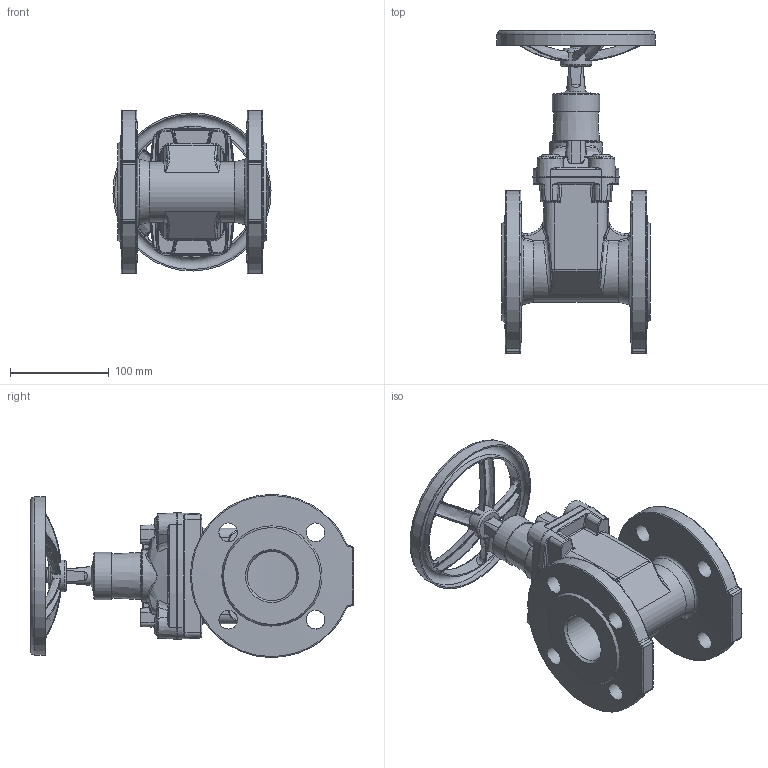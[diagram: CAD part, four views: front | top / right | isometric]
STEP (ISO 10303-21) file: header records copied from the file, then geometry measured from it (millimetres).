
FILE_DESCRIPTION (( 'STEP AP203' ), '1' );
FILE_NAME ('20.DN050.STEP', '2013-01-17T09:14:57', ( 'luca.saino' ), ( 'Hewlett-Packard Company' ), 'SwSTEP 2.0', 'SolidWorks 2012', '' );
FILE_SCHEMA (( 'CONFIG_CONTROL_DESIGN' ));
Length unit declared in the file: millimetre
Products named in the file (1): 20.DN050
Bounding box: 159.97 x 326.79 x 164.95 mm (x, y, z)
Volume: 1792659.9 mm3; surface area: 267109.1 mm2
Topology: 1 solids, 11 shells, 1082 faces, 2707 edges, 1619 vertices
Faces by surface type: plane 306, bspline 282, cylinder 250, torus 134, cone 90, sphere 20
Full cylindrical faces by diameter (mm): 5 x1, 6 x2, 6.4 x1, 6.5 x4, 8 x5, 8.5 x4, 10 x4, 11 x4, 12 x1, 16 x4, 18 x4, 19 x10, 21 x4, 32 x1, 48 x1, 50 x2, 130 x1, 133 x1, 157 x1, 160 x1
Entity records: 53777 total; most frequent: CARTESIAN_POINT 31060, ORIENTED_EDGE 4988, DIRECTION 4242, EDGE_CURVE 2494, AXIS2_PLACEMENT_3D 1734, VERTEX_POINT 1566, EDGE_LOOP 1262, FACE_OUTER_BOUND 1155
